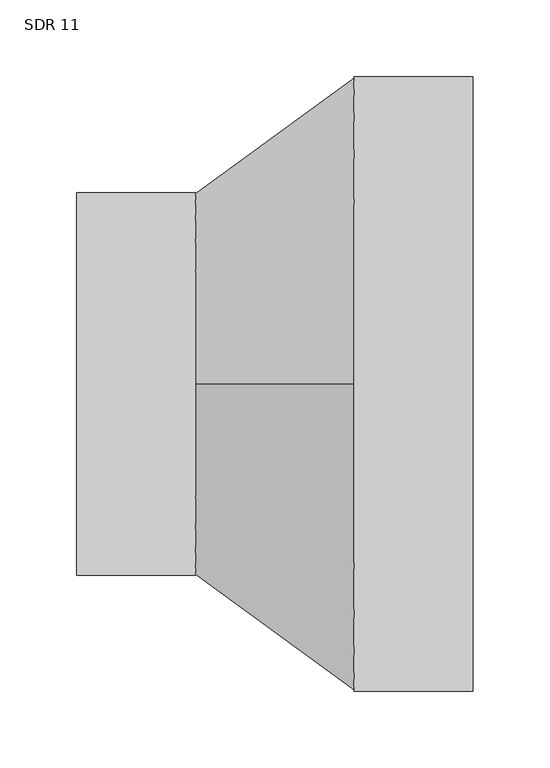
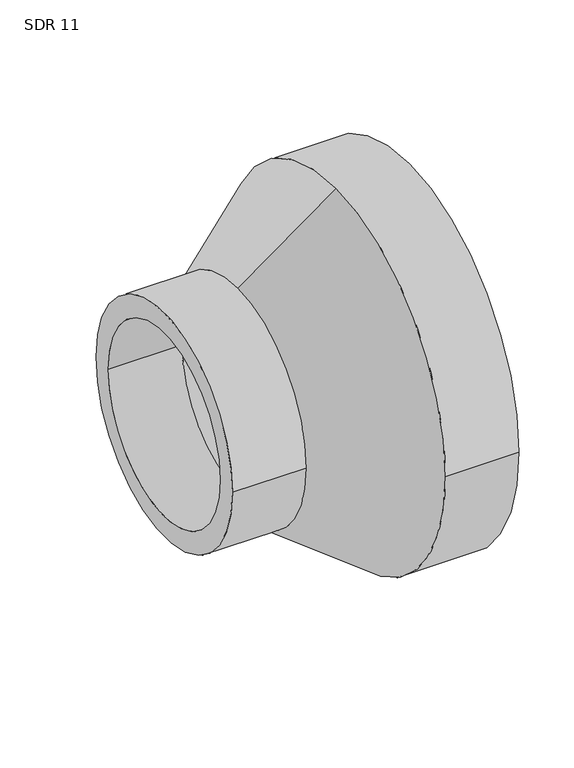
"""IFC4 building model written with IfcOpenShell, lengths in millimetres: pipe fitting geometry, Aquatherm - Reducing Coupling Combined - METRIC : SDR 11."""

from ifc_helpers import new_model, si_unit, frame, origin, place, context, project, spatial, polyline, circle_curve, source, transform, mapped, element, save
from ifc_brep_helpers import plane_surface, cylinder_surface, revolved_surface, advanced_brep


def sdr_11_3d2e871a(model_context):
    return source(origin(), model_context, "Body", "AdvancedBrep", [
        advanced_brep(
        [(-129.54, -124.968, 0.0), (-129.54, 124.968, 0.0), (-129.54, -102.2465455, 0.0), (-129.54, 102.2465455, 0.0), (-51.816, 102.2465455, 0.0), (-51.816, 0.0, 102.2465455), (-51.816, -102.2465455, 0.0), (-51.816, 0.0, -102.2465455), (-51.816, 124.968, 0.0), (-51.816, 0.0, -124.968), (-51.816, -124.968, 0.0), (-51.816, 0.0, 124.968), (129.54, -200.66, 0.0), (129.54, 200.66, 0.0), (129.54, -164.1763636, 0.0), (129.54, 164.1763636, 0.0), (51.816, -200.66, 0.0), (51.816, 0.0, -200.66), (51.816, 200.66, 0.0), (51.816, 0.0, 200.66), (51.816, -164.1763636, 0.0), (51.816, 0.0, 164.1763636), (51.816, 164.1763636, 0.0), (51.816, 0.0, -164.1763636)],
        [
            (0, 1, circle_curve(frame((-129.54, 0.0, 0.0), z_axis=(-1.0, 0.0, 0.0), x_axis=(0.0, 1.0, 0.0)), 124.968)),
            (1, 0, circle_curve(frame((-129.54, 0.0, 0.0), z_axis=(-1.0, 0.0, 0.0), x_axis=(0.0, 1.0, 0.0)), 124.968)),
            (2, 3, circle_curve(frame((-129.54, 0.0, 0.0), z_axis=(1.0, 0.0, 0.0), x_axis=(0.0, 1.0, 0.0)), 102.2465455)),
            (3, 2, circle_curve(frame((-129.54, 0.0, 0.0), z_axis=(1.0, 0.0, 0.0), x_axis=(0.0, 1.0, 0.0)), 102.2465455)),
            (3, 4),
            (4, 5, circle_curve(frame((-51.816, 0.0, 0.0), z_axis=(1.0, 0.0, 0.0), x_axis=(0.0, 1.0, 0.0)), 102.2465455)),
            (5, 6, circle_curve(frame((-51.816, 0.0, 0.0), z_axis=(1.0, 0.0, 0.0), x_axis=(0.0, 1.0, 0.0)), 102.2465455)),
            (6, 2),
            (6, 7, circle_curve(frame((-51.816, 0.0, 0.0), z_axis=(1.0, 0.0, 0.0), x_axis=(0.0, 1.0, 0.0)), 102.2465455)),
            (7, 4, circle_curve(frame((-51.816, 0.0, 0.0), z_axis=(1.0, 0.0, 0.0), x_axis=(0.0, 1.0, 0.0)), 102.2465455)),
            (1, 8),
            (8, 9, circle_curve(frame((-51.816, 0.0, 0.0), z_axis=(-1.0, 0.0, 0.0), x_axis=(0.0, 1.0, 0.0)), 124.968)),
            (9, 10, circle_curve(frame((-51.816, 0.0, 0.0), z_axis=(-1.0, 0.0, 0.0), x_axis=(0.0, 1.0, 0.0)), 124.968)),
            (10, 0),
            (10, 11, circle_curve(frame((-51.816, 0.0, 0.0), z_axis=(-1.0, 0.0, 0.0), x_axis=(0.0, 1.0, 0.0)), 124.968)),
            (11, 8, circle_curve(frame((-51.816, 0.0, 0.0), z_axis=(-1.0, 0.0, 0.0), x_axis=(0.0, 1.0, 0.0)), 124.968)),
            (12, 13, circle_curve(frame((129.54, 0.0, 0.0), z_axis=(1.0, 0.0, 0.0), x_axis=(0.0, 1.0, 0.0)), 200.66)),
            (13, 12, circle_curve(frame((129.54, 0.0, 0.0), z_axis=(1.0, 0.0, 0.0), x_axis=(0.0, 1.0, 0.0)), 200.66)),
            (14, 15, circle_curve(frame((129.54, 0.0, 0.0), z_axis=(-1.0, 0.0, 0.0), x_axis=(0.0, 1.0, 0.0)), 164.1763636)),
            (15, 14, circle_curve(frame((129.54, 0.0, 0.0), z_axis=(-1.0, 0.0, 0.0), x_axis=(0.0, 1.0, 0.0)), 164.1763636)),
            (12, 16),
            (16, 17, circle_curve(frame((51.816, 0.0, 0.0), z_axis=(1.0, 0.0, 0.0), x_axis=(0.0, 1.0, 0.0)), 200.66)),
            (17, 18, circle_curve(frame((51.816, 0.0, 0.0), z_axis=(1.0, 0.0, 0.0), x_axis=(0.0, 1.0, 0.0)), 200.66)),
            (18, 13),
            (18, 19, circle_curve(frame((51.816, 0.0, 0.0), z_axis=(1.0, 0.0, 0.0), x_axis=(0.0, 1.0, 0.0)), 200.66)),
            (19, 16, circle_curve(frame((51.816, 0.0, 0.0), z_axis=(1.0, 0.0, 0.0), x_axis=(0.0, 1.0, 0.0)), 200.66)),
            (14, 20),
            (20, 21, circle_curve(frame((51.816, 0.0, 0.0), z_axis=(-1.0, 0.0, 0.0), x_axis=(0.0, 1.0, 0.0)), 164.1763636)),
            (21, 22, circle_curve(frame((51.816, 0.0, 0.0), z_axis=(-1.0, 0.0, 0.0), x_axis=(0.0, 1.0, 0.0)), 164.1763636)),
            (22, 15),
            (22, 23, circle_curve(frame((51.816, 0.0, 0.0), z_axis=(-1.0, 0.0, 0.0), x_axis=(0.0, 1.0, 0.0)), 164.1763636)),
            (23, 20, circle_curve(frame((51.816, 0.0, 0.0), z_axis=(-1.0, 0.0, 0.0), x_axis=(0.0, 1.0, 0.0)), 164.1763636)),
            (11, 19),
            (17, 9),
            (21, 5),
            (7, 23),
        ],
        [
            plane_surface(frame((-129.54, 102.2465455, 0.0), z_axis=(-1.0, 0.0, 0.0), x_axis=(0.0, 0.0, 1.0))),
            revolved_surface(polyline([(-129.54, 102.2465455, 0.0), (-51.816, 102.2465455, 0.0)]), (-129.54, 0.0, 0.0), (-1.0, 0.0, 0.0)),
            cylinder_surface(frame((0.0, 0.0, 0.0), z_axis=(1.0, 0.0, 0.0), x_axis=(0.0, 1.0, 0.0)), 124.968),
            plane_surface(frame((129.54, 200.66, 0.0), z_axis=(1.0, 0.0, 0.0), x_axis=(0.0, 0.0, 1.0))),
            cylinder_surface(frame((51.816, 0.0, 0.0), z_axis=(1.0, 0.0, 0.0), x_axis=(0.0, 1.0, 0.0)), 200.66),
            revolved_surface(polyline([(51.816, 164.1763636, 0.0), (129.54, 164.1763636, 0.0)]), (0.0, 0.0, 0.0), (-1.0, 0.0, 0.0)),
            revolved_surface(polyline([(51.816, 0.0, 200.66), (-51.816, 0.0, 124.968)]), (-704.7995384, 0.0, 0.0), (-1.0, 0.0, 0.0)),
            revolved_surface(polyline([(-51.816, 0.0, 102.2465455), (51.816, 0.0, 164.1763636)]), (-704.7995384, 0.0, 0.0), (-1.0, 0.0, 0.0)),
        ],
        [
            (0, [[1, 2], [3, 4]]),
            (1, [[-4, 5, 6, 7, 8]]),
            (1, [[-3, -8, 9, 10, -5]]),
            (2, [[-2, 11, 12, 13, 14]]),
            (2, [[-1, -14, 15, 16, -11]]),
            (3, [[17, 18], [19, 20]]),
            (4, [[-17, 21, 22, 23, 24]]),
            (4, [[-18, -24, 25, 26, -21]]),
            (5, [[-19, 27, 28, 29, 30]]),
            (5, [[-20, -30, 31, 32, -27]]),
            (6, [[33, -25, -23, 34, -12, -16]]),
            (6, [[-33, -15, -13, -34, -22, -26]]),
            (7, [[35, -6, -10, 36, -31, -29]]),
            (7, [[-35, -28, -32, -36, -9, -7]]),
        ],
    ),
    ])


if __name__ == "__main__":
    model = new_model("IFC4")
    model_context = context("Model", 3, world=origin())
    ifc_project = project(units=[si_unit("LENGTHUNIT", "METRE", prefix="MILLI")], contexts=[model_context])
    site = spatial("IfcSite", under=ifc_project)
    building = spatial("IfcBuilding", under=site)
    placement = place(None, origin())
    sdr_11_shape = sdr_11_3d2e871a(model_context)
    element("IfcPipeFitting", 1, ObjectType="Aquatherm - Reducing Coupling Combined - METRIC : SDR 11", at=placement, inside=building, context=model_context, shape_type="MappedRepresentation", body=[
        mapped(sdr_11_shape, transform((0.0, 0.0, 0.0), x_axis=(1.0, 0.0, 0.0), y_axis=(0.0, 1.0, 0.0), z_axis=(0.0, 0.0, 1.0))),
    ])
    save(model, "model.ifc")
